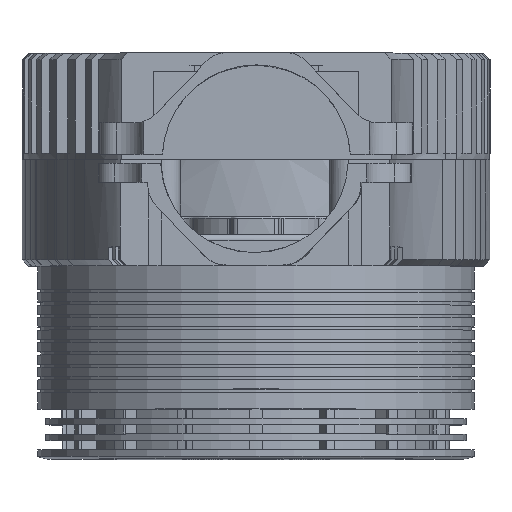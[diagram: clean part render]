
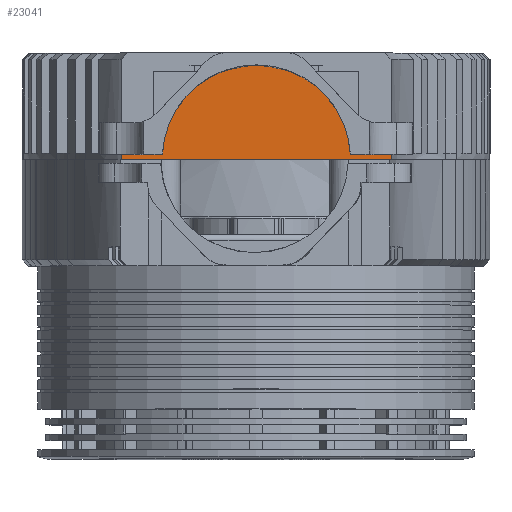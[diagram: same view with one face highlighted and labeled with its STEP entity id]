
A CAD part, top view. The second image highlights one B-rep face of the part: STEP entity #23041.
In plain terms, the highlighted planar face has unit normal (0, 0, 1).
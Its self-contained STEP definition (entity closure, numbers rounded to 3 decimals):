
#620 = DIRECTION ( 'NONE',  ( 1., 0., 0. ) ) ;
#2962 = EDGE_CURVE ( 'NONE', #53386, #38272, #23757, .T. ) ;
#3240 = VECTOR ( 'NONE', #50506, 1000. ) ;
#5802 = ORIENTED_EDGE ( 'NONE', *, *, #27002, .T. ) ;
#6405 = CARTESIAN_POINT ( 'NONE',  ( 61.796, 84.245, 139.085 ) ) ;
#9661 = LINE ( 'NONE', #37503, #13575 ) ;
#9866 = DIRECTION ( 'NONE',  ( 1., 0., 0. ) ) ;
#10626 = PLANE ( 'NONE',  #30068 ) ;
#13575 = VECTOR ( 'NONE', #20430, 1000. ) ;
#13608 = CARTESIAN_POINT ( 'NONE',  ( 31.654, 84.245, 139.085 ) ) ;
#16252 = DIRECTION ( 'NONE',  ( 1., 0., 0. ) ) ;
#16964 = LINE ( 'NONE', #21937, #3240 ) ;
#17176 = DIRECTION ( 'NONE',  ( 0., 0., 1. ) ) ;
#17343 = CARTESIAN_POINT ( 'NONE',  ( 25.136, 83.495, 139.085 ) ) ;
#18392 = CARTESIAN_POINT ( 'NONE',  ( 31.654, 84.245, 139.085 ) ) ;
#19216 = VECTOR ( 'NONE', #41384, 1000. ) ;
#19667 = CARTESIAN_POINT ( 'NONE',  ( 46.765, 83.495, 139.085 ) ) ;
#19669 = VERTEX_POINT ( 'NONE', #65687 ) ;
#20430 = DIRECTION ( 'NONE',  ( -1., 0., 0. ) ) ;
#20598 = EDGE_CURVE ( 'NONE', #37651, #30996, #45383, .T. ) ;
#20878 = CARTESIAN_POINT ( 'NONE',  ( 60.808, 83.495, 139.085 ) ) ;
#21937 = CARTESIAN_POINT ( 'NONE',  ( 68.315, 83.495, 139.085 ) ) ;
#22025 = EDGE_CURVE ( 'NONE', #38580, #34653, #41008, .T. ) ;
#22352 = EDGE_CURVE ( 'NONE', #30996, #19669, #16964, .T. ) ;
#23041 = ADVANCED_FACE ( 'NONE', ( #44996 ), #10626, .T. ) ;
#23424 = CARTESIAN_POINT ( 'NONE',  ( 25.136, 84.245, 139.085 ) ) ;
#23757 = CIRCLE ( 'NONE', #73670, 15.05 ) ;
#23866 = CARTESIAN_POINT ( 'NONE',  ( 25.136, 84.245, 139.085 ) ) ;
#23876 = ORIENTED_EDGE ( 'NONE', *, *, #20598, .T. ) ;
#25066 = VECTOR ( 'NONE', #9866, 1000. ) ;
#27002 = EDGE_CURVE ( 'NONE', #45004, #53386, #38105, .T. ) ;
#27977 = CARTESIAN_POINT ( 'NONE',  ( 25.136, 83.495, 139.085 ) ) ;
#28417 = CARTESIAN_POINT ( 'NONE',  ( 46.686, 83.495, 139.085 ) ) ;
#29367 = ORIENTED_EDGE ( 'NONE', *, *, #64638, .F. ) ;
#29418 = ORIENTED_EDGE ( 'NONE', *, *, #2962, .T. ) ;
#30042 = LINE ( 'NONE', #13608, #64891 ) ;
#30068 = AXIS2_PLACEMENT_3D ( 'NONE', #33888, #50688, #74730 ) ;
#30996 = VERTEX_POINT ( 'NONE', #49629 ) ;
#33888 = CARTESIAN_POINT ( 'NONE',  ( 46.765, 83.495, 139.085 ) ) ;
#34476 = DIRECTION ( 'NONE',  ( 0., 0., 1. ) ) ;
#34653 = VERTEX_POINT ( 'NONE', #27977 ) ;
#37503 = CARTESIAN_POINT ( 'NONE',  ( 68.315, 84.245, 139.085 ) ) ;
#37651 = VERTEX_POINT ( 'NONE', #65096 ) ;
#38105 = CIRCLE ( 'NONE', #67340, 15.05 ) ;
#38272 = VERTEX_POINT ( 'NONE', #18392 ) ;
#38472 = VERTEX_POINT ( 'NONE', #20878 ) ;
#38580 = VERTEX_POINT ( 'NONE', #23424 ) ;
#39775 = EDGE_CURVE ( 'NONE', #34653, #38472, #45917, .T. ) ;
#39916 = ORIENTED_EDGE ( 'NONE', *, *, #68895, .T. ) ;
#41008 = LINE ( 'NONE', #23866, #19216 ) ;
#41384 = DIRECTION ( 'NONE',  ( 0., -1., 0. ) ) ;
#43852 = CARTESIAN_POINT ( 'NONE',  ( 25.136, 83.495, 139.085 ) ) ;
#44996 = FACE_OUTER_BOUND ( 'NONE', #46997, .T. ) ;
#45004 = VERTEX_POINT ( 'NONE', #6405 ) ;
#45383 = LINE ( 'NONE', #43852, #25066 ) ;
#45917 = LINE ( 'NONE', #17343, #73632 ) ;
#46895 = CARTESIAN_POINT ( 'NONE',  ( 46.765, 83.495, 139.085 ) ) ;
#46997 = EDGE_LOOP ( 'NONE', ( #62058, #29367, #23876, #49271, #73551, #5802, #29418, #39916, #49833 ) ) ;
#49271 = ORIENTED_EDGE ( 'NONE', *, *, #22352, .T. ) ;
#49629 = CARTESIAN_POINT ( 'NONE',  ( 68.315, 83.495, 139.085 ) ) ;
#49833 = ORIENTED_EDGE ( 'NONE', *, *, #22025, .T. ) ;
#50506 = DIRECTION ( 'NONE',  ( 0., 1., 0. ) ) ;
#50688 = DIRECTION ( 'NONE',  ( 0., 0., 1. ) ) ;
#53311 = DIRECTION ( 'NONE',  ( -1., 0., 0. ) ) ;
#53386 = VERTEX_POINT ( 'NONE', #74899 ) ;
#55451 = DIRECTION ( 'NONE',  ( -1., 0., 0. ) ) ;
#56990 = DIRECTION ( 'NONE',  ( 1., 0., 0. ) ) ;
#62058 = ORIENTED_EDGE ( 'NONE', *, *, #39775, .T. ) ;
#64638 = EDGE_CURVE ( 'NONE', #37651, #38472, #72267, .T. ) ;
#64891 = VECTOR ( 'NONE', #53311, 1000. ) ;
#65096 = CARTESIAN_POINT ( 'NONE',  ( 68.096, 83.495, 139.085 ) ) ;
#65687 = CARTESIAN_POINT ( 'NONE',  ( 68.315, 84.245, 139.085 ) ) ;
#67340 = AXIS2_PLACEMENT_3D ( 'NONE', #46895, #17176, #620 ) ;
#68192 = VECTOR ( 'NONE', #55451, 1000. ) ;
#68895 = EDGE_CURVE ( 'NONE', #38272, #38580, #30042, .T. ) ;
#70543 = EDGE_CURVE ( 'NONE', #19669, #45004, #9661, .T. ) ;
#72267 = LINE ( 'NONE', #19667, #68192 ) ;
#73551 = ORIENTED_EDGE ( 'NONE', *, *, #70543, .T. ) ;
#73632 = VECTOR ( 'NONE', #56990, 1000. ) ;
#73670 = AXIS2_PLACEMENT_3D ( 'NONE', #28417, #34476, #16252 ) ;
#74730 = DIRECTION ( 'NONE',  ( 1., 0., 0. ) ) ;
#74899 = CARTESIAN_POINT ( 'NONE',  ( 46.725, 98.545, 139.085 ) ) ;
